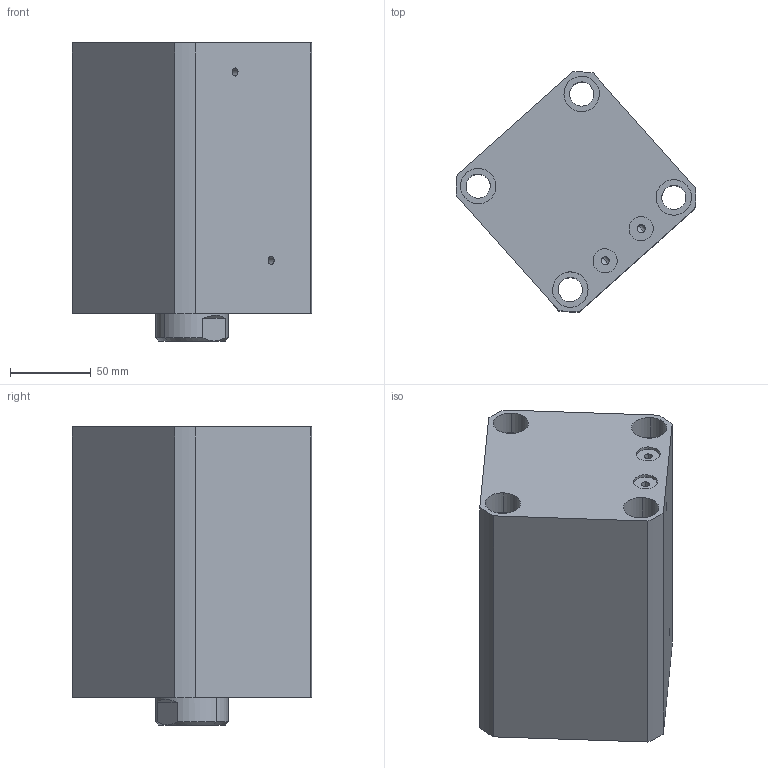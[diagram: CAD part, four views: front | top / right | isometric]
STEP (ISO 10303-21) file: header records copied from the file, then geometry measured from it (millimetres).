
FILE_DESCRIPTION (( 'STEP AP214' ), '1' );
FILE_NAME ('chtb-sdmb80x90n_asm.STEP', '2018-05-25T08:17:31', ( 'Windows' ), ( 'Microsoft' ), 'SwSTEP 2.0', 'SolidWorks 2015', '' );
FILE_SCHEMA (( 'AUTOMOTIVE_DESIGN' ));
Length unit declared in the file: millimetre
Products named in the file (4): CHTB-SDMB80X90NBT; CHTB-SD80X90NHSG; CHTB-SD80QG; chtb-sdmb80x90n_asm
Assembly tree (3 placements, depth 2):
  chtb-sdmb80x90n_asm
    CHTB-SD80QG
    CHTB-SD80X90NHSG
    CHTB-SDMB80X90NBT
Bounding box: 148.94 x 148.94 x 185 mm (x, y, z)
Volume: 1690484.2 mm3; surface area: 242667.2 mm2
Topology: 3 solids, 3 shells, 190 faces, 516 edges, 345 vertices
Faces by surface type: cylinder 107, plane 35, torus 18, cone 16, bspline 14
Entity records: 15174 total; most frequent: CARTESIAN_POINT 10467, ORIENTED_EDGE 1020, DIRECTION 879, EDGE_CURVE 510, AXIS2_PLACEMENT_3D 368, VERTEX_POINT 345, EDGE_LOOP 227, ADVANCED_FACE 190
